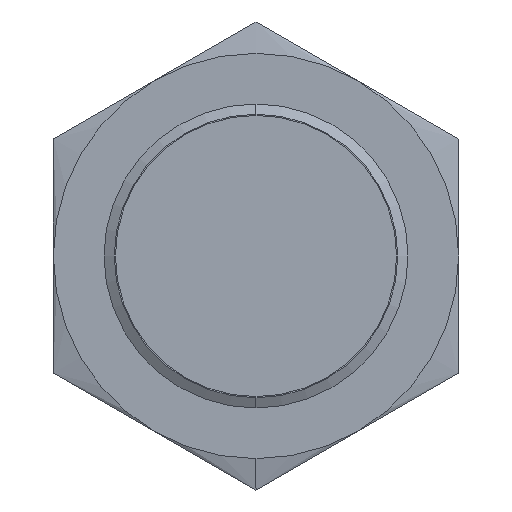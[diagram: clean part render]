
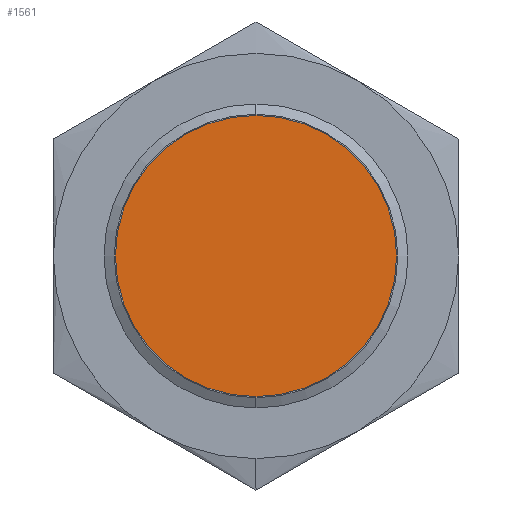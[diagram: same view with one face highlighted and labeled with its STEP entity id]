
A CAD part, left-side view. The second image highlights one B-rep face of the part: STEP entity #1561.
In plain terms, the highlighted planar face has unit normal (-1, 0, 0).
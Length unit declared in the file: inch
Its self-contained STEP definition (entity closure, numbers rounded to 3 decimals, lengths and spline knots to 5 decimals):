
#131 = ORIENTED_EDGE ( 'NONE', *, *, #9156, .F. ) ;
#708 = ORIENTED_EDGE ( 'NONE', *, *, #2009, .F. ) ;
#1284 = EDGE_LOOP ( 'NONE', ( #708, #131 ) ) ;
#1561 = ADVANCED_FACE ( 'NONE', ( #12873 ), #12874, .F. ) ;
#2009 = EDGE_CURVE ( 'NONE', #12542, #9895, #13110, .T. ) ;
#2783 = CIRCLE ( 'NONE', #2784, 0.3275 ) ;
#2784 = AXIS2_PLACEMENT_3D ( 'NONE', #2785, #2786, #2787 ) ;
#2785 = CARTESIAN_POINT ( 'NONE',  ( 7.83468, 8.44799, 0. ) ) ;
#2786 = DIRECTION ( 'NONE',  ( 1., 0., 0. ) ) ;
#2787 = DIRECTION ( 'NONE',  ( 0., 0., 1. ) ) ;
#3743 = CARTESIAN_POINT ( 'NONE',  ( 7.83468, 8.44799, -0.3275 ) ) ;
#9156 = EDGE_CURVE ( 'NONE', #9895, #12542, #2783, .T. ) ;
#9232 = CARTESIAN_POINT ( 'NONE',  ( 7.83468, 8.44799, 0.3275 ) ) ;
#9895 = VERTEX_POINT ( 'NONE', #3743 ) ;
#12542 = VERTEX_POINT ( 'NONE', #9232 ) ;
#12873 = FACE_OUTER_BOUND ( 'NONE', #1284, .T. ) ;
#12874 = PLANE ( 'NONE',  #12875 ) ;
#12875 = AXIS2_PLACEMENT_3D ( 'NONE', #12876, #12877, #12878 ) ;
#12876 = CARTESIAN_POINT ( 'NONE',  ( 7.83468, 8.44799, 0. ) ) ;
#12877 = DIRECTION ( 'NONE',  ( 1., 0., 0. ) ) ;
#12878 = DIRECTION ( 'NONE',  ( 0., 0., -1. ) ) ;
#13110 = CIRCLE ( 'NONE', #13111, 0.3275 ) ;
#13111 = AXIS2_PLACEMENT_3D ( 'NONE', #13112, #13113, #13114 ) ;
#13112 = CARTESIAN_POINT ( 'NONE',  ( 7.83468, 8.44799, 0. ) ) ;
#13113 = DIRECTION ( 'NONE',  ( 1., 0., 0. ) ) ;
#13114 = DIRECTION ( 'NONE',  ( 0., 0., 1. ) ) ;
